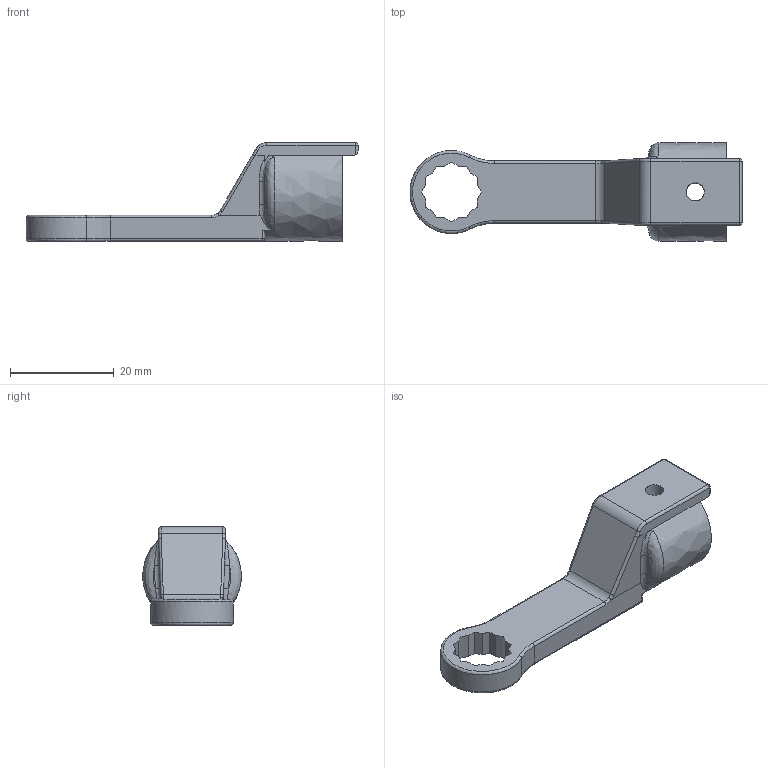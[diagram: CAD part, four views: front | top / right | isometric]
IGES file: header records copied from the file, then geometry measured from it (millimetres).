
Global section: file name: RH12DX10; native system: Autodesk Inventor 2016; preprocessor: unknown; author: Q532; date: 20151110.160653; units: millimetre
Bounding box: 63.99 x 19 x 19 mm (x, y, z)
Volume: 5937.5 mm3; surface area: 4079.8 mm2
Topology: 1 solids, 1 shells, 99 faces, 264 edges, 163 vertices
Faces by surface type: bspline 99
